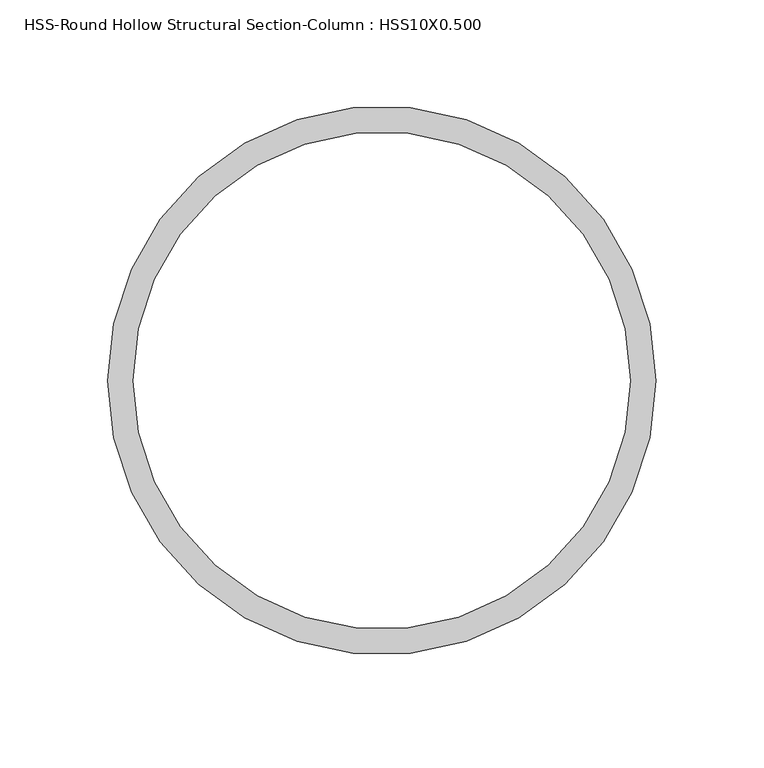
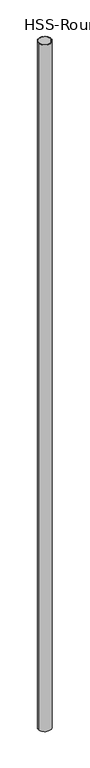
"""IFC4 building model written with IfcOpenShell, lengths in millimetres: column geometry, HSS-Round Hollow Structural Section-Column : HSS10X0.500."""

import ifcopenshell
import ifcopenshell.guid

model = None  # the IFC model being written
_history = None  # IfcOwnerHistory: only IFC2X3 demands one
_inside = {}  # id of a spatial element -> (the spatial element, [elements in it])
_under = {}  # id of a project, library or spatial element -> (it, [spatial elements below it])
_declared = {}  # id of a project -> (the project, [libraries it declares])
_typed = {}  # id of a type object -> (the type object, [elements of that type])
_made_of = {}  # id of a material, layer set ... -> (it, [elements and type objects made of it])


def new_model(schema):
    """Start an empty IFC model of exactly this schema.

    Asked for "IFC4X3", IfcOpenShell would pick the latest addendum, in which some entities
    have other attributes; the version numbers below select the first issue.
    IFC2X3 requires an IfcOwnerHistory on every rooted entity: one is made here for all.
    """
    global model, _history
    if schema == "IFC4X3":
        model = ifcopenshell.file(schema_version=(4, 3, 0, 0))
    else:
        model = ifcopenshell.file(schema=schema)
    _inside.clear()
    _under.clear()
    _declared.clear()
    _typed.clear()
    _made_of.clear()
    _history = None
    if model.schema == "IFC2X3":
        org = make("IfcOrganization", Name="unknown")
        user = make(
            "IfcPersonAndOrganization",
            ThePerson=make("IfcPerson", FamilyName="unknown"),
            TheOrganization=org,
        )
        app = make(
            "IfcApplication",
            ApplicationDeveloper=org,
            Version="unknown",
            ApplicationFullName="unknown",
            ApplicationIdentifier="unknown",
        )
        _history = make(
            "IfcOwnerHistory",
            OwningUser=user,
            OwningApplication=app,
            ChangeAction="ADDED",
            CreationDate=0,
        )
    return model


def make(cls, **values):
    """One entity of the class cls with the attributes given. An attribute that is None is left unset."""
    return model.create_entity(
        cls, **{name: value for name, value in values.items() if value is not None}
    )


def rooted(cls, **values):
    """An entity with a GlobalId (a new one), such as an element, a storey or a relation."""
    return make(cls, GlobalId=ifcopenshell.guid.new(), OwnerHistory=_history, **values)


def si_unit(unit_type, name, prefix=None):
    """IfcSIUnit, for example si_unit("LENGTHUNIT", "METRE", prefix="MILLI")."""
    return make("IfcSIUnit", UnitType=unit_type, Prefix=prefix, Name=name)


def assignment(units):
    """IfcUnitAssignment: the units of a project."""
    return None if units is None else make("IfcUnitAssignment", Units=units)


def point(xyz):
    """IfcCartesianPoint."""
    return None if xyz is None else make("IfcCartesianPoint", Coordinates=xyz)


def direction(xyz):
    """IfcDirection."""
    return None if xyz is None else make("IfcDirection", DirectionRatios=xyz)


def frame(location, z_axis=None, x_axis=None):
    """IfcAxis2Placement3D, a coordinate frame: its origin and axes. An axis left out is left unset."""
    return make(
        "IfcAxis2Placement3D",
        Location=point(location),
        Axis=direction(z_axis),
        RefDirection=direction(x_axis),
    )


def frame_2d(location, x_axis=None):
    """IfcAxis2Placement2D, a coordinate frame in the plane: its origin and x axis."""
    return make(
        "IfcAxis2Placement2D", Location=point(location), RefDirection=direction(x_axis)
    )


def origin():
    """The frame at (0, 0, 0) with its axes left unset."""
    return frame((0.0, 0.0, 0.0))


def origin_2d():
    """The frame at (0, 0) in the plane with its x axis left unset."""
    return frame_2d((0.0, 0.0))


def place(relative_to, where):
    """IfcLocalPlacement: puts the frame where relative to a parent placement (None: the world)."""
    return make(
        "IfcLocalPlacement", PlacementRelTo=relative_to, RelativePlacement=where
    )


def context(
    kind, dimensions, precision=None, world=None, true_north=None, identifier=None
):
    """IfcGeometricRepresentationContext, for example the 3D "Model" context."""
    return make(
        "IfcGeometricRepresentationContext",
        ContextIdentifier=identifier,
        ContextType=kind,
        CoordinateSpaceDimension=dimensions,
        Precision=precision,
        WorldCoordinateSystem=world,
        TrueNorth=true_north,
    )


def project(units=None, contexts=None):
    """IfcProject with its units and contexts."""
    return rooted(
        "IfcProject",
        Name="project",
        RepresentationContexts=contexts,
        UnitsInContext=assignment(units),
    )


def spatial(cls, under=None, at=None, **own):
    """A site, building, storey or space (cls), placed at a placement, below another one or the project."""
    s = rooted(cls, ObjectPlacement=at, **own)
    if under is not None:
        _under.setdefault(under.id(), (under, []))[1].append(s)
    return s


def circle_curve(where, radius):
    """IfcCircle in the frame where."""
    return make("IfcCircle", Position=where, Radius=radius)


def trimmed(basis, trim1, trim2, sense, master):
    """IfcTrimmedCurve: the piece of a basis curve between two trims."""
    return make(
        "IfcTrimmedCurve",
        BasisCurve=basis,
        Trim1=trim1,
        Trim2=trim2,
        SenseAgreement=sense,
        MasterRepresentation=master,
    )


def segment(curve, same_sense, transition):
    """IfcCompositeCurveSegment."""
    return make(
        "IfcCompositeCurveSegment",
        Transition=transition,
        SameSense=same_sense,
        ParentCurve=curve,
    )


def composite_curve(segments, self_intersect=None):
    """IfcCompositeCurve: segments joined end to end."""
    return make("IfcCompositeCurve", Segments=segments, SelfIntersect=self_intersect)


def outline(outer, holes=None, kind="AREA"):
    """IfcArbitraryClosedProfileDef: a profile drawn as a closed curve; with holes, ...WithVoids."""
    if holes is None:
        return make("IfcArbitraryClosedProfileDef", ProfileType=kind, OuterCurve=outer)
    return make(
        "IfcArbitraryProfileDefWithVoids",
        ProfileType=kind,
        OuterCurve=outer,
        InnerCurves=holes,
    )


def extrude(swept, where, along, depth):
    """IfcExtrudedAreaSolid: the profile swept, set in the frame where, extruded along a direction by depth."""
    return make(
        "IfcExtrudedAreaSolid",
        SweptArea=swept,
        Position=where,
        ExtrudedDirection=direction(along),
        Depth=depth,
    )


def shape(context_of_items, identifier, shape_type, items):
    """IfcShapeRepresentation: the items that make up one representation, for example the "Body"."""
    return make(
        "IfcShapeRepresentation",
        ContextOfItems=context_of_items,
        RepresentationIdentifier=identifier,
        RepresentationType=shape_type,
        Items=items,
    )


def source(mapping_origin, context_of_items, identifier, shape_type, items):
    """IfcRepresentationMap: a shape defined once, which mapped items show again and again."""
    return make(
        "IfcRepresentationMap",
        MappingOrigin=mapping_origin,
        MappedRepresentation=shape(context_of_items, identifier, shape_type, items),
    )


def transform(
    local_origin,
    x_axis=None,
    y_axis=None,
    z_axis=None,
    scale=None,
    scale2=None,
    scale3=None,
    uniform=True,
):
    """IfcCartesianTransformationOperator3D, or its non-uniform kind. x_axis, y_axis, z_axis: its Axis1, 2, 3."""
    if uniform:
        return make(
            "IfcCartesianTransformationOperator3D",
            Axis1=direction(x_axis),
            Axis2=direction(y_axis),
            LocalOrigin=point(local_origin),
            Scale=scale,
            Axis3=direction(z_axis),
        )
    return make(
        "IfcCartesianTransformationOperator3DnonUniform",
        Axis1=direction(x_axis),
        Axis2=direction(y_axis),
        LocalOrigin=point(local_origin),
        Scale=scale,
        Axis3=direction(z_axis),
        Scale2=scale2,
        Scale3=scale3,
    )


def mapped(mapping_source, mapping_target):
    """IfcMappedItem: shows the shape of a source again, moved by a transform."""
    return make(
        "IfcMappedItem", MappingSource=mapping_source, MappingTarget=mapping_target
    )


def made_of(thing, what):
    """Note that an element or type object is made of a material, layer set ...; save() writes the relation."""
    if what is not None:
        _made_of.setdefault(what.id(), (what, []))[1].append(thing)
    return thing


def element(
    cls,
    number,
    at=None,
    inside=None,
    cuts=None,
    type_object=None,
    material=None,
    context=None,
    identifier="Body",
    shape_type=None,
    held_by="IfcProductDefinitionShape",
    body=None,
    shapes=None,
    **own,
):
    """One element of the class cls, such as IfcWall. Its Tag is "e" and its number.

    at: its placement. inside: the storey or other place that contains it. cuts: it is an
    opening in that element (IfcRelVoidsElement). A single representation is given by context,
    identifier, shape_type and body (its items); several are given by shapes. held_by: the class
    of the entity that holds the representations. save() writes the other relations.
    """
    e = rooted(cls, Tag="e%d" % number, ObjectPlacement=at, **own)
    if body is not None:
        shapes = [shape(context, identifier, shape_type, body)]
    if shapes is not None:
        e.Representation = make(held_by, Representations=shapes)
    if inside is not None:
        _inside.setdefault(inside.id(), (inside, []))[1].append(e)
    if cuts is not None:
        rooted(
            "IfcRelVoidsElement", RelatingBuildingElement=cuts, RelatedOpeningElement=e
        )
    if type_object is not None:
        _typed.setdefault(type_object.id(), (type_object, []))[1].append(e)
    return made_of(e, material)


def aggregate(whole, parts):
    """IfcRelAggregates: a whole, such as a stair, and the parts it consists of."""
    return rooted("IfcRelAggregates", RelatingObject=whole, RelatedObjects=parts)


def save(model, path):
    """Write the relations noted so far, then the file.

    IfcRelAggregates (storeys below a building ...), IfcRelContainedInSpatialStructure (elements
    in a storey), IfcRelDefinesByType, IfcRelAssociatesMaterial and IfcRelDeclares: one each for
    every whole, place, type object, material and project.
    """
    for whole, parts in _under.values():
        aggregate(whole, parts)
    for where, things in _inside.values():
        rooted(
            "IfcRelContainedInSpatialStructure",
            RelatedElements=things,
            RelatingStructure=where,
        )
    for kind, things in _typed.values():
        rooted("IfcRelDefinesByType", RelatedObjects=things, RelatingType=kind)
    for what, things in _made_of.values():
        rooted("IfcRelAssociatesMaterial", RelatedObjects=things, RelatingMaterial=what)
    for by, libraries in _declared.values():
        rooted("IfcRelDeclares", RelatingContext=by, RelatedDefinitions=libraries)
    model.write(path)


def hss_round_hollow_structural_section_column_hss10x0_500_9719e917(model_context):
    return source(origin(), model_context, "Body", "SweptSolid", [
        extrude(outline(composite_curve([segment(trimmed(circle_curve(origin_2d(), 127.0), [point((-127.0, 0.0))], [point((127.0, 0.0))], False, "CARTESIAN"), True, "CONTINUOUS"), segment(trimmed(circle_curve(origin_2d(), 127.0), [point((127.0, 0.0))], [point((-127.0, 0.0))], False, "CARTESIAN"), True, "CONTINUOUS")], self_intersect=False), holes=[composite_curve([segment(trimmed(circle_curve(origin_2d(), 115.189), [point((-115.189, 0.0))], [point((115.189, 0.0))], True, "CARTESIAN"), True, "CONTINUOUS"), segment(trimmed(circle_curve(origin_2d(), 115.189), [point((115.189, 0.0))], [point((-115.189, 0.0))], True, "CARTESIAN"), True, "CONTINUOUS")], self_intersect=False)]), frame((0.0, 0.0, 5969.0), z_axis=(0.0, 0.0, 1.0), x_axis=(1.0, 0.0, 0.0)), (0.0, 0.0, 1.0), 14376.4),
    ])


if __name__ == "__main__":
    model = new_model("IFC4")
    model_context = context("Model", 3, world=origin())
    ifc_project = project(units=[si_unit("LENGTHUNIT", "METRE", prefix="MILLI")], contexts=[model_context])
    site = spatial("IfcSite", under=ifc_project)
    building = spatial("IfcBuilding", under=site)
    placement = place(None, origin())
    hss_round_hollow_structural_section_column_hss10x0_500_shape = hss_round_hollow_structural_section_column_hss10x0_500_9719e917(model_context)
    element("IfcColumn", 1, ObjectType="HSS-Round Hollow Structural Section-Column : HSS10X0.500", at=placement, inside=building, context=model_context, shape_type="MappedRepresentation", body=[
        mapped(hss_round_hollow_structural_section_column_hss10x0_500_shape, transform((0.0, 0.0, 0.0), x_axis=(1.0, 0.0, 0.0), y_axis=(0.0, 1.0, 0.0), z_axis=(0.0, 0.0, 1.0))),
    ])
    save(model, "model.ifc")
